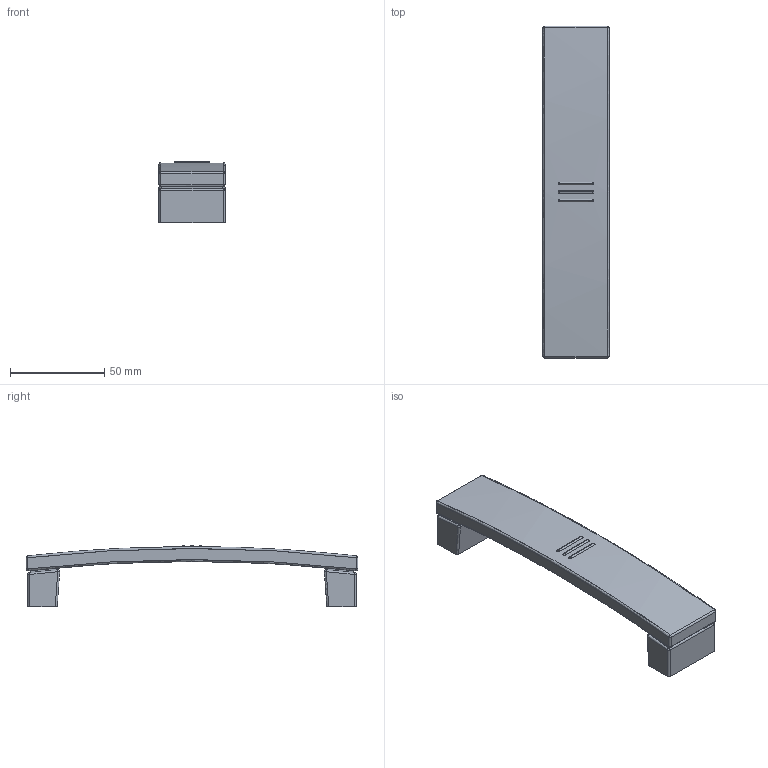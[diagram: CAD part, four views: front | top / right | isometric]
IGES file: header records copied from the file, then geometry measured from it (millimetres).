
Start section: C
Global section: file name: 096-175.igs; native system: By Siemens PLM Incorporated; preprocessor: XPlus GENERIC/IGES 16.0.42; author: Author; organization: Title; date: 20231211.092909; units: millimetre
Bounding box: 35 x 176 x 32.64 mm (x, y, z)
Surface area: 29643.4 mm2 (no closed solid volume)
Topology: 0 solids, 0 shells, 149 faces, 682 edges, 661 vertices
Faces by surface type: bspline 149
